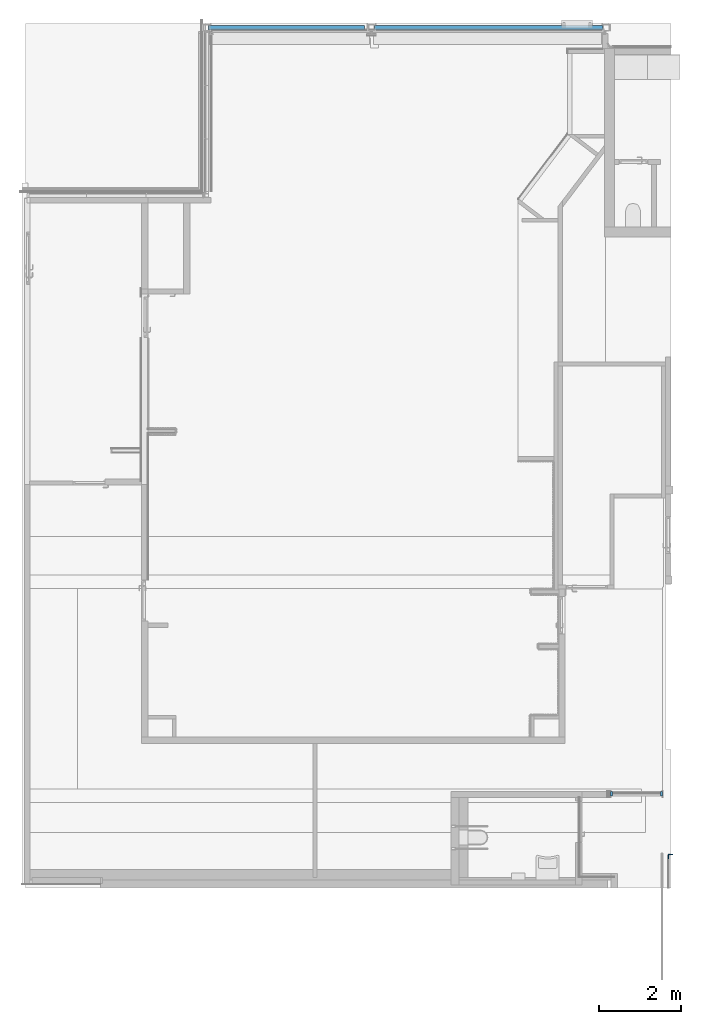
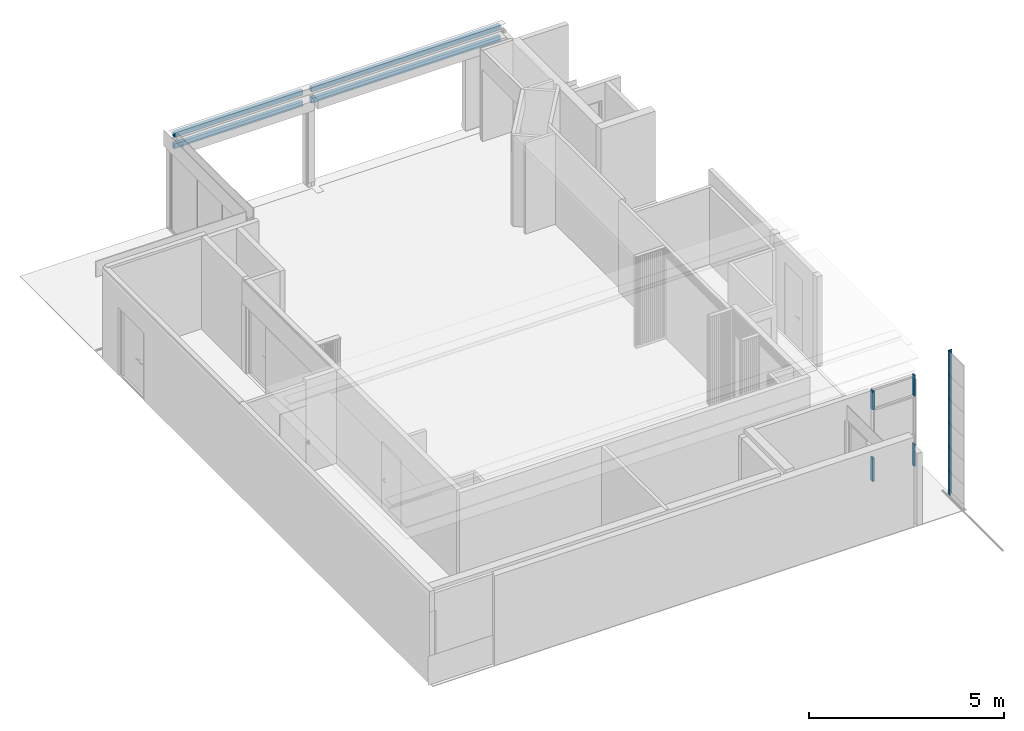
# One storey, part 6 of 37: 15 members, 4 beams, 3 elements without a shape of their own.
"""IFC2X3 building model written with IfcOpenShell, lengths in millimetres."""

from ifc_helpers import new_model, entity, si_unit, converted_unit, derived_unit, direction, frame, frame_2d, origin, origin_with_axes, origin_2d_with_axis, place, context, subcontext, project, spatial, polyline, rectangle, outline, extrude, boolean, source, transform, mapped, material, type_object, element, aggregate, save


model = new_model("IFC2X3")

# Units and contexts
model_context = context("Model", 3, precision=0.01, world=frame((0.0, 4.29681676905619e-09, 0.0)), true_north=direction((4.01073788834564e-13, 1.0)))
plan_context = context("Plan", 3, precision=0.01, world=frame((0.0, 4.29681676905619e-09, 0.0)), true_north=direction((4.01073788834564e-13, 1.0)))
body_context = subcontext(model_context, "Body", "Model", "MODEL_VIEW")
ifc_project = project(units=[converted_unit("PLANEANGLEUNIT", "DEGREE", entity("IfcPositiveLengthMeasure", 0.0174532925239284), si_unit("PLANEANGLEUNIT", "RADIAN"), dimensions=[0, 0, 0, 0, 0, 0, 0]), si_unit("AREAUNIT", "SQUARE_METRE"), si_unit("LENGTHUNIT", "METRE", prefix="MILLI"), si_unit("MASSUNIT", "GRAM", prefix="KILO"), si_unit("POWERUNIT", "WATT"), si_unit("PRESSUREUNIT", "PASCAL"), si_unit("FORCEUNIT", "NEWTON", prefix="KILO"), si_unit("ELECTRICVOLTAGEUNIT", "VOLT"), si_unit("ELECTRICCURRENTUNIT", "AMPERE"), si_unit("THERMODYNAMICTEMPERATUREUNIT", "DEGREE_CELSIUS"), si_unit("TIMEUNIT", "SECOND"), si_unit("VOLUMEUNIT", "CUBIC_METRE"), derived_unit("LINEARVELOCITYUNIT", [(si_unit("LENGTHUNIT", "METRE"), 1), (si_unit("TIMEUNIT", "SECOND"), -1)]), derived_unit("VOLUMETRICFLOWRATEUNIT", [(si_unit("VOLUMEUNIT", "CUBIC_METRE"), 1), (si_unit("TIMEUNIT", "SECOND"), -1)]), derived_unit("THERMALTRANSMITTANCEUNIT", [(si_unit("POWERUNIT", "WATT"), 1), (si_unit("THERMODYNAMICTEMPERATUREUNIT", "KELVIN"), -1), (si_unit("AREAUNIT", "SQUARE_METRE"), -1)]), derived_unit("SOUNDPRESSUREUNIT", [(si_unit("PRESSUREUNIT", "PASCAL"), 1)])], contexts=[model_context, plan_context])

# Site, building, storey
site_placement = place(None, origin_with_axes())
site = spatial("IfcSite", under=ifc_project, at=site_placement, Name="ENGM", CompositionType="ELEMENT")
building_placement = place(site_placement, origin_with_axes())
building = spatial("IfcBuilding", under=site, at=building_placement, Name="TS", CompositionType="ELEMENT")
storey_placement = place(building_placement, frame((0.0, 0.0, 210900.0), z_axis=(0.0, 0.0, 1.0), x_axis=(1.0, 0.0, 0.0)))
storey = spatial("IfcBuildingStorey", under=building, at=storey_placement, Name="Nivå F", CompositionType="ELEMENT", Elevation=210900.0)

# Curtain wall, member
curtain_wall_type_1 = type_object("IfcCurtainWallType", Name="Curtain Wall:A242 - IGV 50 x 60mm (Glass 10mm)", PredefinedType="NOTDEFINED")
curtain_wall_1_placement = place(storey_placement, frame((0.0, 0.0, -210900.0), z_axis=(0.0, 0.0, 1.0), x_axis=(1.0, 0.0, 0.0)))
curtain_wall_1 = element("IfcCurtainWall", 1, at=curtain_wall_1_placement, inside=storey, type_object=curtain_wall_type_1, Name="Curtain Wall:A242 - IGV 50 x 60mm (Glass 10mm)", ObjectType="Curtain Wall:A242 - IGV 50 x 60mm (Glass 10mm)")
ifc_material_1 = material(Name="T2_Metal_Aluminium")
member_type_1 = type_object("IfcMemberType", Name="Rectangular Mullion:A233 - Sprosse 50 mm - 060(post)+40(dekkprofil)", PredefinedType="MULLION", material=ifc_material_1)
shared_shape_1 = source(origin(), body_context, "Body", "SweptSolid", [
    extrude(rectangle(XDim=50.0, YDim=99.9999999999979, at=origin_2d_with_axis()), frame((-25.0, 10.0, -690.0), z_axis=(0.0, 0.0, 1.0), x_axis=(-1.0, 0.0, 0.0)), (0.0, 0.0, 1.0), 690.000000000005),
])
member_1_placement = place(curtain_wall_1_placement, frame((536119.999999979, 443085.000000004, 210960.0), z_axis=(0.0, 0.0, -1.0), x_axis=(1.0, 0.0, 0.0)))
member_1 = element("IfcMember", 2, at=member_1_placement, type_object=member_type_1, material=ifc_material_1, Name="Rectangular Mullion:A233 - Sprosse 50 mm - 060(post)+40(dekkprofil)", ObjectType="Rectangular Mullion:A233 - Sprosse 50 mm - 060(post)+40(dekkprofil)", context=body_context, shape_type="MappedRepresentation", body=[
    mapped(shared_shape_1, transform((0.0, 0.0, 0.0), scale=1.0)),
])

curtain_wall_2_placement = place(storey_placement, frame((0.0, 0.0, -210900.0), z_axis=(0.0, 0.0, 1.0), x_axis=(1.0, 0.0, 0.0)))
curtain_wall_2 = element("IfcCurtainWall", 3, at=curtain_wall_2_placement, inside=storey, type_object=curtain_wall_type_1, Name="Curtain Wall:A242 - IGV 50 x 60mm (Glass 10mm)", ObjectType="Curtain Wall:A242 - IGV 50 x 60mm (Glass 10mm)")
member_2_placement = place(curtain_wall_2_placement, frame((536119.999999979, 443085.000000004, 210960.0), z_axis=(0.0, 0.0, -1.0), x_axis=(1.0, 0.0, 0.0)))
member_2 = element("IfcMember", 4, at=member_2_placement, type_object=member_type_1, material=ifc_material_1, Name="Rectangular Mullion:A233 - Sprosse 50 mm - 060(post)+40(dekkprofil)", ObjectType="Rectangular Mullion:A233 - Sprosse 50 mm - 060(post)+40(dekkprofil)", context=body_context, shape_type="MappedRepresentation", body=[
    mapped(shared_shape_1, transform((0.0, 0.0, 0.0), scale=1.0)),
])

# Member
member_type_2 = type_object("IfcMemberType", Name="Rectangular Mullion:A233 - Sprosse 50 mm - 060(post)+40(dekkprofil)", PredefinedType="MULLION", material=ifc_material_1)
shared_shape_2 = source(origin(), body_context, "Body", "SweptSolid", [
    extrude(rectangle(XDim=99.9999999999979, YDim=50.0, at=origin_2d_with_axis()), frame((-25.0, 10.0, -600.0), z_axis=(0.0, 0.0, 1.0), x_axis=(0.0, -1.0, 0.0)), (0.0, 0.0, 1.0), 599.999999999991),
])
member_3_placement = place(curtain_wall_1_placement, frame((534845.987499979, 443085.000000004, 213750.0), z_axis=(0.0, 0.0, 1.0), x_axis=(-1.0, 0.0, 0.0)))
member_3 = element("IfcMember", 5, at=member_3_placement, type_object=member_type_2, material=ifc_material_1, Name="Rectangular Mullion:A233 - Sprosse 50 mm - 060(post)+40(dekkprofil)", ObjectType="Rectangular Mullion:A233 - Sprosse 50 mm - 060(post)+40(dekkprofil)", context=body_context, shape_type="MappedRepresentation", body=[
    mapped(shared_shape_2, transform((0.0, 0.0, 0.0), scale=1.0)),
])

member_4_placement = place(curtain_wall_2_placement, frame((534845.987499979, 443085.000000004, 213750.0), z_axis=(0.0, 0.0, 1.0), x_axis=(-1.0, 0.0, 0.0)))
member_4 = element("IfcMember", 6, at=member_4_placement, type_object=member_type_2, material=ifc_material_1, Name="Rectangular Mullion:A233 - Sprosse 50 mm - 060(post)+40(dekkprofil)", ObjectType="Rectangular Mullion:A233 - Sprosse 50 mm - 060(post)+40(dekkprofil)", context=body_context, shape_type="MappedRepresentation", body=[
    mapped(shared_shape_2, transform((0.0, 0.0, 0.0), scale=1.0)),
])

member_type_3 = type_object("IfcMemberType", Name="Rectangular Mullion:A233 - Sprosse 50 mm - 060(post)+40(dekkprofil)", PredefinedType="MULLION", material=ifc_material_1)
shared_shape_3 = source(origin(), body_context, "Body", "SweptSolid", [
    extrude(rectangle(XDim=99.9999999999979, YDim=50.0, at=origin_2d_with_axis()), frame((-25.0, 10.0, -740.0), z_axis=(0.0, 0.0, 1.0), x_axis=(0.0, -1.0, 0.0)), (0.0, 0.0, 1.0), 740.000000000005),
])
member_5_placement = place(curtain_wall_1_placement, frame((534845.987499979, 443085.000000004, 211650.0), z_axis=(0.0, 0.0, 1.0), x_axis=(-1.0, 0.0, 0.0)))
member_5 = element("IfcMember", 7, at=member_5_placement, type_object=member_type_3, material=ifc_material_1, Name="Rectangular Mullion:A233 - Sprosse 50 mm - 060(post)+40(dekkprofil)", ObjectType="Rectangular Mullion:A233 - Sprosse 50 mm - 060(post)+40(dekkprofil)", context=body_context, shape_type="MappedRepresentation", body=[
    mapped(shared_shape_3, transform((0.0, 0.0, 0.0), scale=1.0)),
])

member_6_placement = place(curtain_wall_2_placement, frame((534845.987499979, 443085.000000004, 211650.0), z_axis=(0.0, 0.0, 1.0), x_axis=(-1.0, 0.0, 0.0)))
member_6 = element("IfcMember", 8, at=member_6_placement, type_object=member_type_3, material=ifc_material_1, Name="Rectangular Mullion:A233 - Sprosse 50 mm - 060(post)+40(dekkprofil)", ObjectType="Rectangular Mullion:A233 - Sprosse 50 mm - 060(post)+40(dekkprofil)", context=body_context, shape_type="MappedRepresentation", body=[
    mapped(shared_shape_3, transform((0.0, 0.0, 0.0), scale=1.0)),
])

member_type_4 = type_object("IfcMemberType", Name="Rectangular Mullion:A233 - Sprosse 50 mm - 060(post)+40(dekkprofil)", PredefinedType="MULLION", material=ifc_material_1)
shared_shape_4 = source(origin(), body_context, "Body", "SweptSolid", [
    extrude(rectangle(XDim=50.0, YDim=99.9999999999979, at=origin_2d_with_axis()), frame((-25.0, 10.0, -650.0), z_axis=(0.0, 0.0, 1.0), x_axis=(-1.0, 0.0, 0.0)), (0.0, 0.0, 1.0), 649.999999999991),
])
member_7_placement = place(curtain_wall_1_placement, frame((536119.999999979, 443085.000000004, 213150.0), z_axis=(0.0, 0.0, -1.0), x_axis=(1.0, 0.0, 0.0)))
member_7 = element("IfcMember", 9, at=member_7_placement, type_object=member_type_4, material=ifc_material_1, Name="Rectangular Mullion:A233 - Sprosse 50 mm - 060(post)+40(dekkprofil)", ObjectType="Rectangular Mullion:A233 - Sprosse 50 mm - 060(post)+40(dekkprofil)", context=body_context, shape_type="MappedRepresentation", body=[
    mapped(shared_shape_4, transform((0.0, 0.0, 0.0), scale=1.0)),
])

aggregate(curtain_wall_1, [member_1, member_3, member_5, member_7])

member_8_placement = place(curtain_wall_2_placement, frame((536119.999999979, 443085.000000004, 213150.0), z_axis=(0.0, 0.0, -1.0), x_axis=(1.0, 0.0, 0.0)))
member_8 = element("IfcMember", 10, at=member_8_placement, type_object=member_type_4, material=ifc_material_1, Name="Rectangular Mullion:A233 - Sprosse 50 mm - 060(post)+40(dekkprofil)", ObjectType="Rectangular Mullion:A233 - Sprosse 50 mm - 060(post)+40(dekkprofil)", context=body_context, shape_type="MappedRepresentation", body=[
    mapped(shared_shape_4, transform((0.0, 0.0, 0.0), scale=1.0)),
])

aggregate(curtain_wall_2, [member_2, member_4, member_6, member_8])

# Curtain wall, members
curtain_wall_type_2 = type_object("IfcCurtainWallType", PredefinedType="NOTDEFINED")
curtain_wall_3_placement = place(storey_placement, frame((0.0, 0.0, -210900.0), z_axis=(0.0, 0.0, 1.0), x_axis=(1.0, 0.0, 0.0)))
curtain_wall_3 = element("IfcCurtainWall", 11, at=curtain_wall_3_placement, inside=storey, type_object=curtain_wall_type_2)
ifc_material_2 = material(Name="Metal - Steel")
member_type_5 = type_object("IfcMemberType", Name="L Corner Mullion:A233 - Sprosse - 20 x 100 mm", PredefinedType="MULLION", material=ifc_material_2)
shared_shape_5 = source(origin(), body_context, "Body", "SweptSolid", [
    extrude(outline(polyline([(-43.3333333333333, -66.6666666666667), (-23.3333333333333, -66.6666666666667), (-23.3333333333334, 23.3333333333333), (66.6666666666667, 23.3333333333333), (66.6666666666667, 43.3333333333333), (-43.3333333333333, 43.3333333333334), (-43.3333333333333, -66.6666666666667)])), frame((6.66666666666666, -6.66666666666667, -750.0), z_axis=(0.0, 0.0, 1.0), x_axis=(-1.0, 0.0, 0.0)), (0.0, 0.0, 1.0), 750.000000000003),
])
member_9_placement = place(curtain_wall_3_placement, frame((536299.987500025, 441549.999999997, 213910.0), z_axis=(0.0, 0.0, 1.0), x_axis=(-1.0, 0.0, 0.0)))
member_9 = element("IfcMember", 12, at=member_9_placement, type_object=member_type_5, material=ifc_material_2, Name="L Corner Mullion:A233 - Sprosse - 20 x 100 mm", ObjectType="L Corner Mullion:A233 - Sprosse - 20 x 100 mm", context=body_context, shape_type="MappedRepresentation", body=[
    mapped(shared_shape_5, transform((0.0, 0.0, 0.0), scale=1.0)),
])
member_10_placement = place(curtain_wall_3_placement, frame((536299.987500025, 441549.999999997, 214660.0), z_axis=(0.0, 0.0, 1.0), x_axis=(-1.0, 0.0, 0.0)))
member_10 = element("IfcMember", 13, at=member_10_placement, type_object=member_type_5, material=ifc_material_2, Name="L Corner Mullion:A233 - Sprosse - 20 x 100 mm", ObjectType="L Corner Mullion:A233 - Sprosse - 20 x 100 mm", context=body_context, shape_type="MappedRepresentation", body=[
    mapped(shared_shape_5, transform((0.0, 0.0, 0.0), scale=1.0)),
])
member_11_placement = place(curtain_wall_3_placement, frame((536299.987500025, 441549.999999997, 212410.0), z_axis=(0.0, 0.0, 1.0), x_axis=(-1.0, 0.0, 0.0)))
member_11 = element("IfcMember", 14, at=member_11_placement, type_object=member_type_5, material=ifc_material_2, Name="L Corner Mullion:A233 - Sprosse - 20 x 100 mm", ObjectType="L Corner Mullion:A233 - Sprosse - 20 x 100 mm", context=body_context, shape_type="MappedRepresentation", body=[
    mapped(shared_shape_5, transform((0.0, 0.0, 0.0), scale=1.0)),
])
member_12_placement = place(curtain_wall_3_placement, frame((536299.987500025, 441549.999999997, 213160.0), z_axis=(0.0, 0.0, 1.0), x_axis=(-1.0, 0.0, 0.0)))
member_12 = element("IfcMember", 15, at=member_12_placement, type_object=member_type_5, material=ifc_material_2, Name="L Corner Mullion:A233 - Sprosse - 20 x 100 mm", ObjectType="L Corner Mullion:A233 - Sprosse - 20 x 100 mm", context=body_context, shape_type="MappedRepresentation", body=[
    mapped(shared_shape_5, transform((0.0, 0.0, 0.0), scale=1.0)),
])
member_type_6 = type_object("IfcMemberType", Name="L Corner Mullion:A233 - Sprosse - 20 x 100 mm", PredefinedType="MULLION", material=ifc_material_2)
shared_shape_6 = source(origin(), body_context, "Body", "SweptSolid", [
    extrude(outline(polyline([(-43.3333333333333, -66.6666666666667), (-23.3333333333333, -66.6666666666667), (-23.3333333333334, 23.3333333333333), (66.6666666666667, 23.3333333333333), (66.6666666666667, 43.3333333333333), (-43.3333333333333, 43.3333333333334), (-43.3333333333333, -66.6666666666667)])), frame((6.66666666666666, -6.66666666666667, -150.0), z_axis=(0.0, 0.0, 1.0), x_axis=(-1.0, 0.0, 0.0)), (0.0, 0.0, 1.0), 150.000000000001),
])
member_13_placement = place(curtain_wall_3_placement, frame((536299.987500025, 441549.999999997, 211060.0), z_axis=(0.0, 0.0, 1.0), x_axis=(-1.0, 0.0, 0.0)))
member_13 = element("IfcMember", 16, at=member_13_placement, type_object=member_type_6, material=ifc_material_2, Name="L Corner Mullion:A233 - Sprosse - 20 x 100 mm", ObjectType="L Corner Mullion:A233 - Sprosse - 20 x 100 mm", context=body_context, shape_type="MappedRepresentation", body=[
    mapped(shared_shape_6, transform((0.0, 0.0, 0.0), scale=1.0)),
])
member_type_7 = type_object("IfcMemberType", Name="L Corner Mullion:A233 - Sprosse - 20 x 100 mm", PredefinedType="MULLION", material=ifc_material_2)
shared_shape_7 = source(origin(), body_context, "Body", "SweptSolid", [
    extrude(outline(polyline([(-43.3333333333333, -66.6666666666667), (-23.3333333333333, -66.6666666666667), (-23.3333333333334, 23.3333333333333), (66.6666666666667, 23.3333333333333), (66.6666666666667, 43.3333333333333), (-43.3333333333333, 43.3333333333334), (-43.3333333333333, -66.6666666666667)])), frame((6.66666666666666, -6.66666666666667, -740.0), z_axis=(0.0, 0.0, 1.0), x_axis=(-1.0, 0.0, 0.0)), (0.0, 0.0, 1.0), 740.000000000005),
])
member_14_placement = place(curtain_wall_3_placement, frame((536299.987500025, 441549.999999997, 215399.999999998), z_axis=(0.0, 0.0, 1.0), x_axis=(-1.0, 0.0, 0.0)))
member_14 = element("IfcMember", 17, at=member_14_placement, type_object=member_type_7, material=ifc_material_2, Name="L Corner Mullion:A233 - Sprosse - 20 x 100 mm", ObjectType="L Corner Mullion:A233 - Sprosse - 20 x 100 mm", context=body_context, shape_type="MappedRepresentation", body=[
    mapped(shared_shape_7, transform((0.0, 0.0, 0.0), scale=1.0)),
])
member_type_8 = type_object("IfcMemberType", Name="L Corner Mullion:A233 - Sprosse - 20 x 100 mm", PredefinedType="MULLION", material=ifc_material_2)
shared_shape_8 = source(origin(), body_context, "Body", "SweptSolid", [
    extrude(outline(polyline([(-43.3333333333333, -66.6666666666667), (-23.3333333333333, -66.6666666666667), (-23.3333333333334, 23.3333333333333), (66.6666666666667, 23.3333333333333), (66.6666666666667, 43.3333333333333), (-43.3333333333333, 43.3333333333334), (-43.3333333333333, -66.6666666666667)])), frame((6.66666666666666, -6.66666666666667, -600.0), z_axis=(0.0, 0.0, 1.0), x_axis=(-1.0, 0.0, 0.0)), (0.0, 0.0, 1.0), 600.000000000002),
])
member_15_placement = place(curtain_wall_3_placement, frame((536299.987500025, 441549.999999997, 211660.0), z_axis=(0.0, 0.0, 1.0), x_axis=(-1.0, 0.0, 0.0)))
member_15 = element("IfcMember", 18, at=member_15_placement, type_object=member_type_8, material=ifc_material_2, Name="L Corner Mullion:A233 - Sprosse - 20 x 100 mm", ObjectType="L Corner Mullion:A233 - Sprosse - 20 x 100 mm", context=body_context, shape_type="MappedRepresentation", body=[
    mapped(shared_shape_8, transform((0.0, 0.0, 0.0), scale=1.0)),
])
aggregate(curtain_wall_3, [member_9, member_13, member_10, member_11, member_14, member_15, member_12])

# Beams
ifc_material_3 = material(Name="_NSW Stål")
beam_type = type_object("IfcBeamType", Name="B223 - Bjelke - HUP1:B223 - HUP 100 x 150 x 8 mm", PredefinedType="BEAM")
for number, where, z_axis, x_axis in (
    (19, (534665.000000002, 461799.999999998, 2850.0), (0.0, 0.0, 1.0), (-1.0, 0.0, 0.0)),
    (20, (534665.000000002, 461799.999999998, 2500.0), (0.0, 0.0, 1.0), (-1.0, 0.0, 0.0)),
):
    element("IfcBeam", number, at=place(storey_placement, frame(where, z_axis=z_axis, x_axis=x_axis)), inside=storey, type_object=beam_type, material=ifc_material_3, Name="B223 - Bjelke - HUP1:B223 - HUP 100 x 150 x 8 mm", ObjectType="B223 - Bjelke - HUP1:B223 - HUP 100 x 150 x 8 mm", context=body_context, shape_type="SweptSolid", body=[
        boolean("DIFFERENCE", extrude(rectangle(XDim=150.000000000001, YDim=100.000000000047, at=frame_2d((3.46531692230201e-11, -6.93063384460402e-11), x_axis=(1.0, 0.0))), frame((0.0, 0.0, 75.0), z_axis=(1.0, 0.0, 0.0), x_axis=(0.0, 0.0, -1.0)), (0.0, 0.0, 1.0), 5590.00000000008), extrude(rectangle(XDim=134.000000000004, YDim=83.9999999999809, at=frame_2d((3.46531692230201e-11, 0.0), x_axis=(0.0, 1.0))), frame((0.0, 0.0, 75.0), z_axis=(1.0, 0.0, 0.0), x_axis=(0.0, -1.0, 0.0)), (0.0, 0.0, 1.0), 5590.00000000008)),
    ])
for number, where, z_axis, x_axis in (
    (21, (528829.166747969, 461799.999999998, 2850.0), (0.0, 0.0, 1.0), (-1.0, 0.0, 0.0)),
    (22, (528829.166747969, 461799.999999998, 2500.0), (0.0, 0.0, 1.0), (-1.0, 0.0, 0.0)),
):
    element("IfcBeam", number, at=place(storey_placement, frame(where, z_axis=z_axis, x_axis=x_axis)), inside=storey, type_object=beam_type, material=ifc_material_3, Name="B223 - Bjelke - HUP1:B223 - HUP 100 x 150 x 8 mm", ObjectType="B223 - Bjelke - HUP1:B223 - HUP 100 x 150 x 8 mm", context=body_context, shape_type="SweptSolid", body=[
        boolean("DIFFERENCE", extrude(rectangle(XDim=150.000000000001, YDim=100.000000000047, at=frame_2d((3.46531692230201e-11, 0.0), x_axis=(1.0, 0.0))), frame((0.0, 0.0, 75.0), z_axis=(1.0, 0.0, 0.0), x_axis=(0.0, 0.0, -1.0)), (0.0, 0.0, 1.0), 3808.66674796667), extrude(rectangle(XDim=134.000000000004, YDim=83.9999999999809, at=frame_2d((-3.46531692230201e-11, 0.0), x_axis=(0.0, 1.0))), frame((0.0, 0.0, 75.0), z_axis=(1.0, 0.0, 0.0), x_axis=(0.0, -1.0, 0.0)), (0.0, 0.0, 1.0), 3808.66674796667)),
    ])

save(model, "model.ifc")
